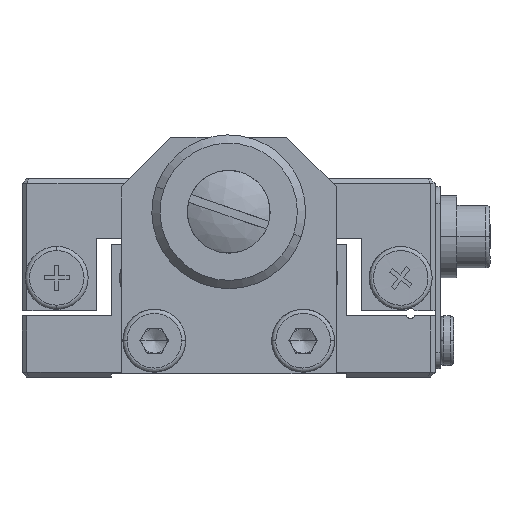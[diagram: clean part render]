
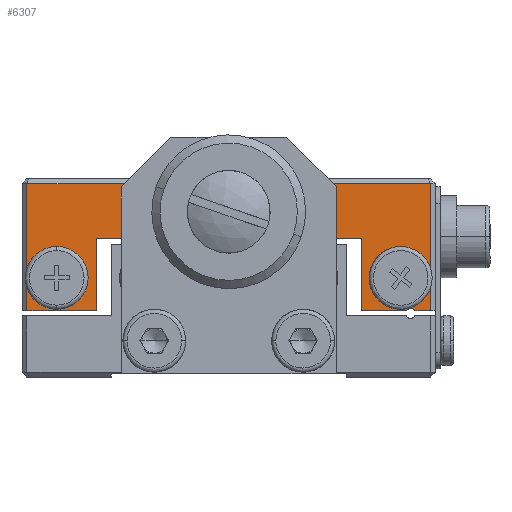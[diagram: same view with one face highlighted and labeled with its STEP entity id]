
A CAD part, left-side view. The second image highlights one B-rep face of the part: STEP entity #6307.
In plain terms, the highlighted planar face has unit normal (-1, 0, 0).
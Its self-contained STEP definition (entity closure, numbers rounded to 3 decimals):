
#1693 = AXIS2_PLACEMENT_3D ( 'NONE', #21187, #21188, #21189 ) ;
#6307 = ADVANCED_FACE ( 'NONE', ( #8565 ), #18115, .F. ) ;
#7238 = VERTEX_POINT ( 'NONE', #17680 ) ;
#7379 = VERTEX_POINT ( 'NONE', #17629 ) ;
#7602 = VERTEX_POINT ( 'NONE', #17579 ) ;
#7684 = ORIENTED_EDGE ( 'NONE', *, *, #13640, .T. ) ;
#7685 = ORIENTED_EDGE ( 'NONE', *, *, #13612, .F. ) ;
#7686 = ORIENTED_EDGE ( 'NONE', *, *, #13608, .T. ) ;
#7688 = ORIENTED_EDGE ( 'NONE', *, *, #13600, .T. ) ;
#7690 = ORIENTED_EDGE ( 'NONE', *, *, #13615, .F. ) ;
#7691 = ORIENTED_EDGE ( 'NONE', *, *, #13631, .F. ) ;
#7695 = ORIENTED_EDGE ( 'NONE', *, *, #13639, .T. ) ;
#7698 = ORIENTED_EDGE ( 'NONE', *, *, #13634, .F. ) ;
#7699 = ORIENTED_EDGE ( 'NONE', *, *, #13626, .F. ) ;
#7700 = ORIENTED_EDGE ( 'NONE', *, *, #13620, .F. ) ;
#7803 = VERTEX_POINT ( 'NONE', #17419 ) ;
#7874 = VERTEX_POINT ( 'NONE', #17275 ) ;
#7936 = VERTEX_POINT ( 'NONE', #17160 ) ;
#8008 = VERTEX_POINT ( 'NONE', #18523 ) ;
#8072 = VERTEX_POINT ( 'NONE', #18404 ) ;
#8074 = VERTEX_POINT ( 'NONE', #18400 ) ;
#8085 = VERTEX_POINT ( 'NONE', #18378 ) ;
#8565 = FACE_OUTER_BOUND ( 'NONE', #23530, .T. ) ;
#9775 = CIRCLE ( 'NONE', #1693, 0.3 ) ;
#9790 = LINE ( 'NONE', #21205, #9793 ) ;
#9793 = VECTOR ( 'NONE', #21206, 1000. ) ;
#9799 = LINE ( 'NONE', #21213, #9803 ) ;
#9802 = LINE ( 'NONE', #21210, #9810 ) ;
#9803 = VECTOR ( 'NONE', #21215, 1000. ) ;
#9810 = VECTOR ( 'NONE', #21220, 1000. ) ;
#9817 = LINE ( 'NONE', #21229, #9821 ) ;
#9821 = VECTOR ( 'NONE', #21230, 1000. ) ;
#9830 = LINE ( 'NONE', #21241, #9833 ) ;
#9833 = VECTOR ( 'NONE', #21242, 1000. ) ;
#9843 = LINE ( 'NONE', #21251, #9847 ) ;
#9846 = LINE ( 'NONE', #21237, #9853 ) ;
#9847 = VECTOR ( 'NONE', #21253, 1000. ) ;
#9853 = VECTOR ( 'NONE', #21258, 1000. ) ;
#9858 = LINE ( 'NONE', #21256, #9863 ) ;
#9862 = LINE ( 'NONE', #21267, #9865 ) ;
#9863 = VECTOR ( 'NONE', #21266, 1000. ) ;
#9865 = VECTOR ( 'NONE', #21268, 1000. ) ;
#13600 = EDGE_CURVE ( 'NONE', #7936, #8085, #9775, .T. ) ;
#13608 = EDGE_CURVE ( 'NONE', #8085, #7874, #9790, .T. ) ;
#13612 = EDGE_CURVE ( 'NONE', #7238, #7874, #9799, .T. ) ;
#13615 = EDGE_CURVE ( 'NONE', #7936, #8008, #9802, .T. ) ;
#13620 = EDGE_CURVE ( 'NONE', #8074, #7602, #9817, .T. ) ;
#13626 = EDGE_CURVE ( 'NONE', #7803, #8074, #9830, .T. ) ;
#13631 = EDGE_CURVE ( 'NONE', #8008, #8072, #9843, .T. ) ;
#13634 = EDGE_CURVE ( 'NONE', #7379, #7803, #9846, .T. ) ;
#13639 = EDGE_CURVE ( 'NONE', #7379, #8072, #9858, .T. ) ;
#13640 = EDGE_CURVE ( 'NONE', #7238, #7602, #9862, .T. ) ;
#14052 = AXIS2_PLACEMENT_3D ( 'NONE', #18173, #18110, #18108 ) ;
#17160 = CARTESIAN_POINT ( 'NONE',  ( -84.146, 12.268, 10.74 ) ) ;
#17275 = CARTESIAN_POINT ( 'NONE',  ( -84.146, 12.268, 12.2 ) ) ;
#17419 = CARTESIAN_POINT ( 'NONE',  ( -84.146, 12.268, -8. ) ) ;
#17579 = CARTESIAN_POINT ( 'NONE',  ( -84.146, 19.968, -12.2 ) ) ;
#17629 = CARTESIAN_POINT ( 'NONE',  ( -84.146, 16.668, -8. ) ) ;
#17680 = CARTESIAN_POINT ( 'NONE',  ( -84.146, 19.968, 12.2 ) ) ;
#18108 = DIRECTION ( 'NONE',  ( 0., 0., -1. ) ) ;
#18110 = DIRECTION ( 'NONE',  ( 1., 0., 0. ) ) ;
#18115 = PLANE ( 'NONE',  #14052 ) ;
#18173 = CARTESIAN_POINT ( 'NONE',  ( -84.146, 12.268, 12.2 ) ) ;
#18378 = CARTESIAN_POINT ( 'NONE',  ( -84.146, 12.268, 11.26 ) ) ;
#18400 = CARTESIAN_POINT ( 'NONE',  ( -84.146, 12.268, -12.2 ) ) ;
#18404 = CARTESIAN_POINT ( 'NONE',  ( -84.146, 16.668, 8. ) ) ;
#18523 = CARTESIAN_POINT ( 'NONE',  ( -84.146, 12.268, 8. ) ) ;
#21187 = CARTESIAN_POINT ( 'NONE',  ( -84.146, 12.118, 11. ) ) ;
#21188 = DIRECTION ( 'NONE',  ( 1., 0., 0. ) ) ;
#21189 = DIRECTION ( 'NONE',  ( 0., 0., 1. ) ) ;
#21205 = CARTESIAN_POINT ( 'NONE',  ( -84.146, 12.268, 11.88 ) ) ;
#21206 = DIRECTION ( 'NONE',  ( 0., 0., 1. ) ) ;
#21210 = CARTESIAN_POINT ( 'NONE',  ( -84.146, 12.268, 0. ) ) ;
#21213 = CARTESIAN_POINT ( 'NONE',  ( -84.146, 16.118, 12.2 ) ) ;
#21215 = DIRECTION ( 'NONE',  ( 0., -1., 0. ) ) ;
#21220 = DIRECTION ( 'NONE',  ( 0., 0., -1. ) ) ;
#21229 = CARTESIAN_POINT ( 'NONE',  ( -84.146, 16.118, -12.2 ) ) ;
#21230 = DIRECTION ( 'NONE',  ( 0., 1., 0. ) ) ;
#21237 = CARTESIAN_POINT ( 'NONE',  ( -84.146, 16.118, -8. ) ) ;
#21241 = CARTESIAN_POINT ( 'NONE',  ( -84.146, 12.268, 0. ) ) ;
#21242 = DIRECTION ( 'NONE',  ( 0., 0., -1. ) ) ;
#21251 = CARTESIAN_POINT ( 'NONE',  ( -84.146, 16.118, 8. ) ) ;
#21253 = DIRECTION ( 'NONE',  ( 0., 1., 0. ) ) ;
#21256 = CARTESIAN_POINT ( 'NONE',  ( -84.146, 16.668, 0. ) ) ;
#21258 = DIRECTION ( 'NONE',  ( 0., -1., 0. ) ) ;
#21266 = DIRECTION ( 'NONE',  ( 0., 0., 1. ) ) ;
#21267 = CARTESIAN_POINT ( 'NONE',  ( -84.146, 19.968, 0. ) ) ;
#21268 = DIRECTION ( 'NONE',  ( 0., 0., -1. ) ) ;
#23530 = EDGE_LOOP ( 'NONE', ( #7700, #7699, #7698, #7695, #7691, #7690, #7688, #7686, #7685, #7684 ) ) ;
